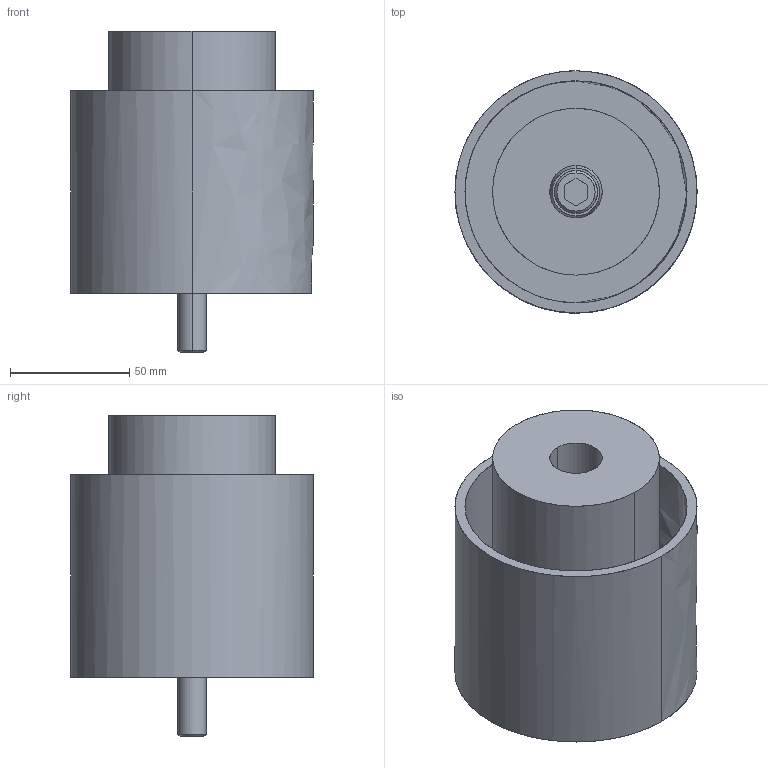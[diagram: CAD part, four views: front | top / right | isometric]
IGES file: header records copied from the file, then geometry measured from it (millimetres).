
Global section: file name: E:\UnigraphicsGraphicData\MISUMI_PRESS-PARTS\IGES\3d_phubn70-110-85-r_07089_r00.igs; native system: NX V5.0; preprocessor: UGS NX IGES V5.0; author: MISUMI; date: 20110105.162255; units: millimetre
Bounding box: 101.6 x 101.6 x 135 mm (x, y, z)
Surface area: 113313 mm2 (no closed solid volume)
Topology: 0 solids, 0 shells, 49 faces, 380 edges, 380 vertices
Faces by surface type: bspline 49
